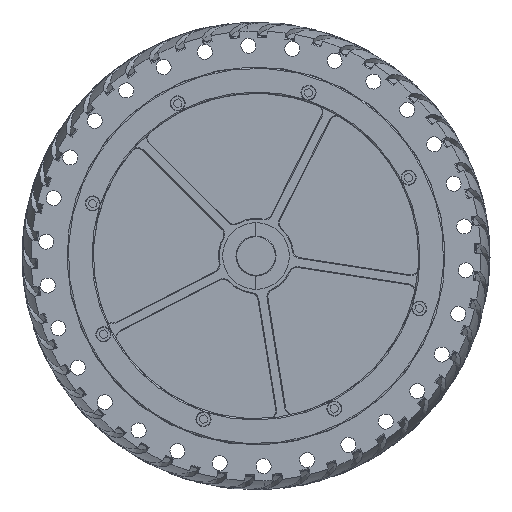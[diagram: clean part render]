
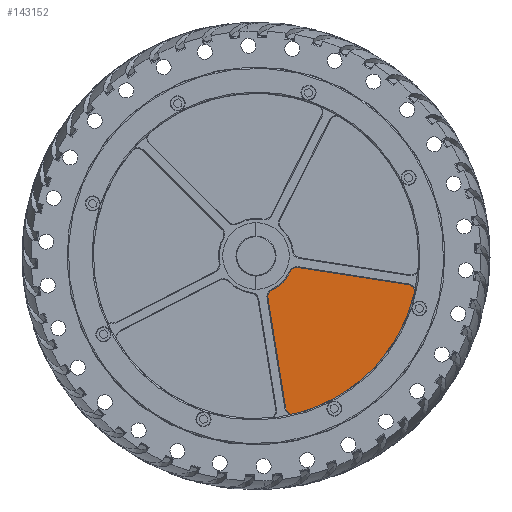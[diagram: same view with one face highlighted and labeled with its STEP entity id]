
A CAD part, front view. The second image highlights one B-rep face of the part: STEP entity #143152.
In plain terms, the highlighted planar face has unit normal (0, -1, 0).
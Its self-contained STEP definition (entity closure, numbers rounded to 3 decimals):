
#1520 = ORIENTED_EDGE ( 'NONE', *, *, #85910, .T. ) ;
#6538 = EDGE_CURVE ( 'NONE', #146801, #14247, #32123, .T. ) ;
#7814 = LINE ( 'NONE', #24657, #136602 ) ;
#8869 = CIRCLE ( 'NONE', #125418, 3. ) ;
#9087 = ORIENTED_EDGE ( 'NONE', *, *, #23482, .F. ) ;
#11730 = CIRCLE ( 'NONE', #98500, 65. ) ;
#14247 = VERTEX_POINT ( 'NONE', #35242 ) ;
#14332 = AXIS2_PLACEMENT_3D ( 'NONE', #72593, #73670, #84941 ) ;
#14909 = CARTESIAN_POINT ( 'NONE',  ( 16.32, -62.755, -7.593 ) ) ;
#17548 = CARTESIAN_POINT ( 'NONE',  ( 63.217, -62.755, -15.119 ) ) ;
#17635 = VERTEX_POINT ( 'NONE', #93439 ) ;
#18445 = CIRCLE ( 'NONE', #27966, 3. ) ;
#23482 = EDGE_CURVE ( 'NONE', #139349, #147710, #7814, .T. ) ;
#24657 = CARTESIAN_POINT ( 'NONE',  ( -0.307, -62.755, -1.976 ) ) ;
#26376 = ORIENTED_EDGE ( 'NONE', *, *, #140426, .T. ) ;
#26589 = ORIENTED_EDGE ( 'NONE', *, *, #32037, .T. ) ;
#27966 = AXIS2_PLACEMENT_3D ( 'NONE', #46027, #120697, #70772 ) ;
#28797 = CARTESIAN_POINT ( 'NONE',  ( 4.732, -62.755, -16.751 ) ) ;
#29977 = VERTEX_POINT ( 'NONE', #76921 ) ;
#32037 = EDGE_CURVE ( 'NONE', #29977, #98913, #43987, .T. ) ;
#32123 = CIRCLE ( 'NONE', #112245, 3. ) ;
#35242 = CARTESIAN_POINT ( 'NONE',  ( 6.323, -62.755, -13.604 ) ) ;
#38644 = ORIENTED_EDGE ( 'NONE', *, *, #132693, .T. ) ;
#39593 = DIRECTION ( 'NONE',  ( 0., -1., 0. ) ) ;
#41314 = DIRECTION ( 'NONE',  ( -0.457, 0., 0.89 ) ) ;
#42391 = DIRECTION ( 'NONE',  ( 0., -1., 0. ) ) ;
#43509 = EDGE_CURVE ( 'NONE', #101389, #17635, #91570, .T. ) ;
#43987 = CIRCLE ( 'NONE', #135068, 3. ) ;
#44845 = EDGE_CURVE ( 'NONE', #139349, #29977, #8869, .T. ) ;
#45527 = VECTOR ( 'NONE', #99701, 1000. ) ;
#46027 = CARTESIAN_POINT ( 'NONE',  ( 60.3, -62.755, -14.421 ) ) ;
#49244 = CARTESIAN_POINT ( 'NONE',  ( 1.974, -62.755, 0.319 ) ) ;
#49805 = PLANE ( 'NONE',  #67255 ) ;
#51905 = DIRECTION ( 'NONE',  ( -0.457, 0., 0.89 ) ) ;
#54067 = DIRECTION ( 'NONE',  ( -0.457, 0., 0.89 ) ) ;
#58984 = DIRECTION ( 'NONE',  ( 0., -1., 0. ) ) ;
#59064 = EDGE_CURVE ( 'NONE', #146801, #98913, #64378, .T. ) ;
#59289 = CARTESIAN_POINT ( 'NONE',  ( 0., -62.755, 0. ) ) ;
#59824 = DIRECTION ( 'NONE',  ( 0., -1., 0. ) ) ;
#63224 = DIRECTION ( 'NONE',  ( 0., -1., 0. ) ) ;
#64378 = CIRCLE ( 'NONE', #97122, 15. ) ;
#67222 = CARTESIAN_POINT ( 'NONE',  ( 0., -62.755, 0. ) ) ;
#67255 = AXIS2_PLACEMENT_3D ( 'NONE', #88974, #63224, #51905 ) ;
#69223 = DIRECTION ( 'NONE',  ( -0.457, 0., 0.89 ) ) ;
#70299 = CARTESIAN_POINT ( 'NONE',  ( 7.693, -62.755, -16.273 ) ) ;
#70772 = DIRECTION ( 'NONE',  ( -0.457, 0., 0.89 ) ) ;
#72593 = CARTESIAN_POINT ( 'NONE',  ( 14.791, -62.755, -60.21 ) ) ;
#73670 = DIRECTION ( 'NONE',  ( 0., -1., 0. ) ) ;
#76921 = CARTESIAN_POINT ( 'NONE',  ( 14.95, -62.755, -4.925 ) ) ;
#81236 = ORIENTED_EDGE ( 'NONE', *, *, #6538, .T. ) ;
#81266 = CARTESIAN_POINT ( 'NONE',  ( 60.76, -62.755, -11.456 ) ) ;
#83699 = CIRCLE ( 'NONE', #14332, 3. ) ;
#84242 = DIRECTION ( 'NONE',  ( 0., -1., 0. ) ) ;
#84941 = DIRECTION ( 'NONE',  ( -0.457, 0., 0.89 ) ) ;
#85563 = FACE_OUTER_BOUND ( 'NONE', #158476, .T. ) ;
#85910 = EDGE_CURVE ( 'NONE', #14247, #101389, #140751, .T. ) ;
#88974 = CARTESIAN_POINT ( 'NONE',  ( 0., -62.755, 0. ) ) ;
#91224 = AXIS2_PLACEMENT_3D ( 'NONE', #114929, #42391, #41314 ) ;
#91570 = LINE ( 'NONE', #49244, #45527 ) ;
#93439 = CARTESIAN_POINT ( 'NONE',  ( 11.829, -62.755, -60.688 ) ) ;
#94942 = CARTESIAN_POINT ( 'NONE',  ( 16.32, -62.755, -7.593 ) ) ;
#94954 = DIRECTION ( 'NONE',  ( -0.457, 0., 0.89 ) ) ;
#97122 = AXIS2_PLACEMENT_3D ( 'NONE', #59289, #59824, #145734 ) ;
#98500 = AXIS2_PLACEMENT_3D ( 'NONE', #67222, #118228, #152599 ) ;
#98913 = VERTEX_POINT ( 'NONE', #122961 ) ;
#99701 = DIRECTION ( 'NONE',  ( 0.159, 0., -0.987 ) ) ;
#101389 = VERTEX_POINT ( 'NONE', #28797 ) ;
#110543 = DIRECTION ( 'NONE',  ( 0.988, 0., -0.153 ) ) ;
#112245 = AXIS2_PLACEMENT_3D ( 'NONE', #70299, #84242, #94954 ) ;
#113876 = ORIENTED_EDGE ( 'NONE', *, *, #44845, .T. ) ;
#114929 = CARTESIAN_POINT ( 'NONE',  ( 7.693, -62.755, -16.273 ) ) ;
#115322 = CARTESIAN_POINT ( 'NONE',  ( 15.506, -62.755, -63.123 ) ) ;
#118228 = DIRECTION ( 'NONE',  ( 0., -1., 0. ) ) ;
#120697 = DIRECTION ( 'NONE',  ( 0., -1., 0. ) ) ;
#122961 = CARTESIAN_POINT ( 'NONE',  ( 13.6, -62.755, -6.328 ) ) ;
#124623 = CARTESIAN_POINT ( 'NONE',  ( 16.78, -62.755, -4.629 ) ) ;
#125418 = AXIS2_PLACEMENT_3D ( 'NONE', #94942, #58984, #69223 ) ;
#128866 = ORIENTED_EDGE ( 'NONE', *, *, #43509, .T. ) ;
#132693 = EDGE_CURVE ( 'NONE', #17635, #149168, #83699, .T. ) ;
#135068 = AXIS2_PLACEMENT_3D ( 'NONE', #14909, #39593, #54067 ) ;
#136602 = VECTOR ( 'NONE', #110543, 1000. ) ;
#139349 = VERTEX_POINT ( 'NONE', #124623 ) ;
#140426 = EDGE_CURVE ( 'NONE', #153495, #147710, #18445, .T. ) ;
#140751 = CIRCLE ( 'NONE', #91224, 3. ) ;
#141611 = ORIENTED_EDGE ( 'NONE', *, *, #151495, .T. ) ;
#143152 = ADVANCED_FACE ( 'NONE', ( #85563 ), #49805, .T. ) ;
#145734 = DIRECTION ( 'NONE',  ( -0.457, 0., 0.89 ) ) ;
#146801 = VERTEX_POINT ( 'NONE', #155247 ) ;
#147710 = VERTEX_POINT ( 'NONE', #81266 ) ;
#149168 = VERTEX_POINT ( 'NONE', #115322 ) ;
#150398 = ORIENTED_EDGE ( 'NONE', *, *, #59064, .F. ) ;
#151495 = EDGE_CURVE ( 'NONE', #149168, #153495, #11730, .T. ) ;
#152599 = DIRECTION ( 'NONE',  ( -0.457, 0., 0.89 ) ) ;
#153495 = VERTEX_POINT ( 'NONE', #17548 ) ;
#155247 = CARTESIAN_POINT ( 'NONE',  ( 6.411, -62.755, -13.561 ) ) ;
#158476 = EDGE_LOOP ( 'NONE', ( #128866, #38644, #141611, #26376, #9087, #113876, #26589, #150398, #81236, #1520 ) ) ;
